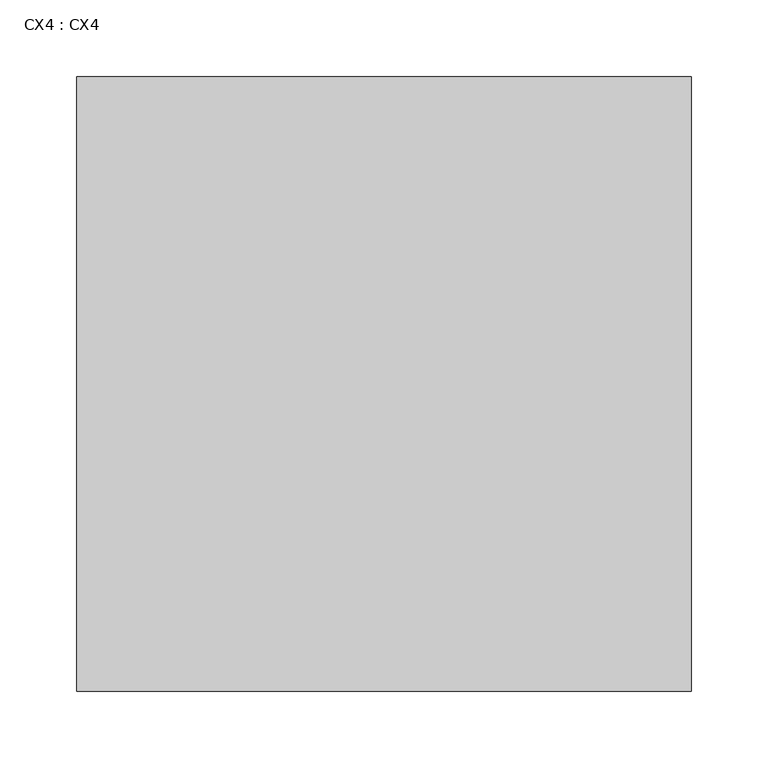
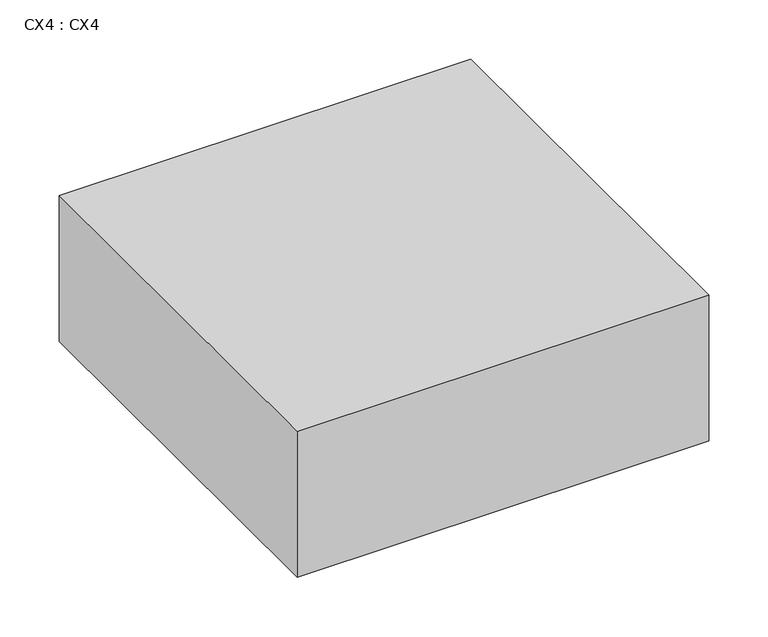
"""IFC4 building model written with IfcOpenShell, lengths in millimetres: proxy geometry, CX4 : CX4."""

from ifc_helpers import new_model, si_unit, frame, origin, place, context, project, spatial, polyline, outline, extrude, source, transform, mapped, element, save


def cx4_cx4_77cf85d4(model_context):
    return source(origin(), model_context, "Body", "SweptSolid", [
        extrude(outline(polyline([(8044.94, 28902.8), (7644.94, 28902.8), (7644.94, 29302.8), (8044.94, 29302.8), (8044.94, 28902.8)])), frame((0.0, 0.0, 2870.0), z_axis=(0.0, 0.0, 1.0), x_axis=(1.0, 0.0, 0.0)), (0.0, 0.0, 1.0), 150.0),
    ])


if __name__ == "__main__":
    model = new_model("IFC4")
    model_context = context("Model", 3, world=origin())
    ifc_project = project(units=[si_unit("LENGTHUNIT", "METRE", prefix="MILLI")], contexts=[model_context])
    site = spatial("IfcSite", under=ifc_project)
    building = spatial("IfcBuilding", under=site)
    placement = place(None, origin())
    cx4_cx4_shape = cx4_cx4_77cf85d4(model_context)
    element("IfcBuildingElementProxy", 1, Name="CX4 : CX4", ObjectType="CX4 : CX4", at=placement, inside=building, context=model_context, shape_type="MappedRepresentation", body=[
        mapped(cx4_cx4_shape, transform((0.0, 0.0, 0.0), x_axis=(1.0, 0.0, 0.0), y_axis=(0.0, 1.0, 0.0), z_axis=(0.0, 0.0, 1.0))),
    ])
    save(model, "model.ifc")
